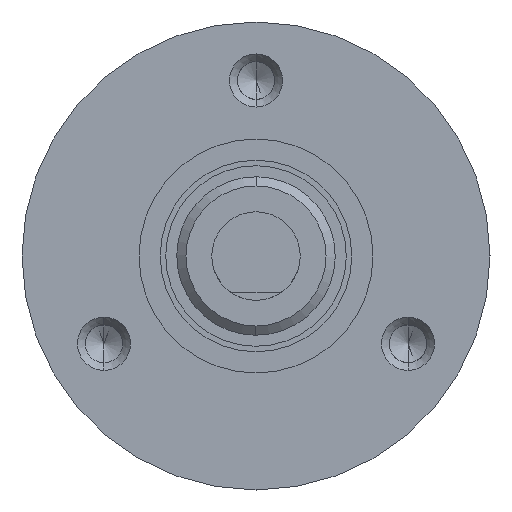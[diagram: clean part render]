
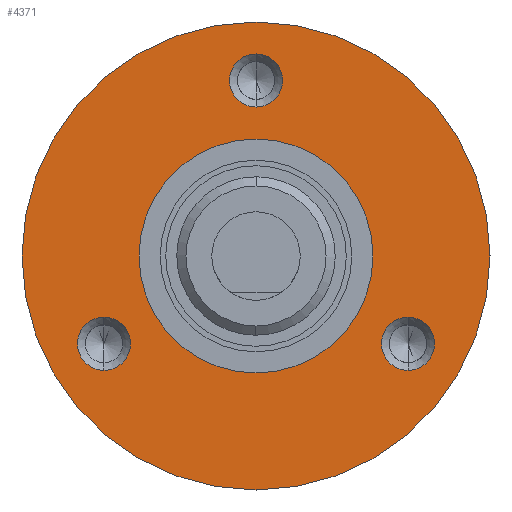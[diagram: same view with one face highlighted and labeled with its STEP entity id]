
A CAD part, left-side view. The second image highlights one B-rep face of the part: STEP entity #4371.
In plain terms, the highlighted planar face has unit normal (-1, 0, 0).
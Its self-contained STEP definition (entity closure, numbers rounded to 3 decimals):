
#153 = CARTESIAN_POINT ( 'NONE',  ( 1.768, 46.048, -11.907 ) ) ;
#1065 = DIRECTION ( 'NONE',  ( 0., 0., 1. ) ) ;
#1550 = ORIENTED_EDGE ( 'NONE', *, *, #4675, .F. ) ;
#1561 = CARTESIAN_POINT ( 'NONE',  ( 1.768, 25.423, 15.875 ) ) ;
#1571 = EDGE_CURVE ( 'NONE', #9108, #20999, #21218, .T. ) ;
#1644 = DIRECTION ( 'NONE',  ( 0., 0., 1. ) ) ;
#2259 = DIRECTION ( 'NONE',  ( 0., 0., 1. ) ) ;
#2486 = ORIENTED_EDGE ( 'NONE', *, *, #14475, .F. ) ;
#2510 = DIRECTION ( 'NONE',  ( -1., 0., 0. ) ) ;
#2513 = CARTESIAN_POINT ( 'NONE',  ( 1.768, 46.048, -15.51 ) ) ;
#2564 = EDGE_CURVE ( 'NONE', #15308, #13459, #4350, .T. ) ;
#2587 = AXIS2_PLACEMENT_3D ( 'NONE', #19311, #6935, #1644 ) ;
#2626 = ORIENTED_EDGE ( 'NONE', *, *, #15796, .T. ) ;
#3092 = AXIS2_PLACEMENT_3D ( 'NONE', #10157, #5096, #15935 ) ;
#3182 = DIRECTION ( 'NONE',  ( 0., 0., -1. ) ) ;
#3215 = FACE_OUTER_BOUND ( 'NONE', #17970, .T. ) ;
#4081 = CARTESIAN_POINT ( 'NONE',  ( 1.768, 4.799, -15.511 ) ) ;
#4109 = DIRECTION ( 'NONE',  ( 1., 0., 0. ) ) ;
#4120 = ORIENTED_EDGE ( 'NONE', *, *, #21231, .T. ) ;
#4197 = CIRCLE ( 'NONE', #21848, 15.875 ) ;
#4350 = CIRCLE ( 'NONE', #14502, 3.603 ) ;
#4371 = ADVANCED_FACE ( 'NONE', ( #5433, #14048, #13928, #16168, #3215 ), #19556, .T. ) ;
#4386 = VERTEX_POINT ( 'NONE', #1561 ) ;
#4510 = CARTESIAN_POINT ( 'NONE',  ( 1.768, 25.423, 0. ) ) ;
#4675 = EDGE_CURVE ( 'NONE', #20999, #9108, #22881, .T. ) ;
#5096 = DIRECTION ( 'NONE',  ( -1., 0., 0. ) ) ;
#5209 = CARTESIAN_POINT ( 'NONE',  ( 1.768, 41.298, 0. ) ) ;
#5313 = VERTEX_POINT ( 'NONE', #2513 ) ;
#5320 = DIRECTION ( 'NONE',  ( 0., 0., 1. ) ) ;
#5433 = FACE_BOUND ( 'NONE', #7790, .T. ) ;
#6024 = DIRECTION ( 'NONE',  ( 0., 0., -1. ) ) ;
#6092 = EDGE_LOOP ( 'NONE', ( #15454, #13209 ) ) ;
#6614 = CARTESIAN_POINT ( 'NONE',  ( 1.768, 25.422, 27.418 ) ) ;
#6918 = CIRCLE ( 'NONE', #17834, 31.75 ) ;
#6935 = DIRECTION ( 'NONE',  ( -1., 0., 0. ) ) ;
#7790 = EDGE_LOOP ( 'NONE', ( #10171, #1550 ) ) ;
#8000 = VERTEX_POINT ( 'NONE', #18902 ) ;
#8039 = CARTESIAN_POINT ( 'NONE',  ( 1.768, 4.799, -11.908 ) ) ;
#8263 = DIRECTION ( 'NONE',  ( -1., 0., 0. ) ) ;
#8433 = AXIS2_PLACEMENT_3D ( 'NONE', #16889, #2510, #2259 ) ;
#9108 = VERTEX_POINT ( 'NONE', #6614 ) ;
#10157 = CARTESIAN_POINT ( 'NONE',  ( 1.768, 4.799, -11.908 ) ) ;
#10171 = ORIENTED_EDGE ( 'NONE', *, *, #1571, .F. ) ;
#10448 = VERTEX_POINT ( 'NONE', #20320 ) ;
#10939 = AXIS2_PLACEMENT_3D ( 'NONE', #21408, #19526, #3182 ) ;
#11250 = CIRCLE ( 'NONE', #13894, 3.603 ) ;
#11300 = DIRECTION ( 'NONE',  ( -1., 0., 0. ) ) ;
#11352 = CIRCLE ( 'NONE', #3092, 3.603 ) ;
#12238 = CARTESIAN_POINT ( 'NONE',  ( 1.768, 46.048, -8.304 ) ) ;
#12280 = EDGE_CURVE ( 'NONE', #15576, #5313, #11250, .T. ) ;
#12386 = DIRECTION ( 'NONE',  ( 1., 0., 0. ) ) ;
#13209 = ORIENTED_EDGE ( 'NONE', *, *, #13938, .F. ) ;
#13459 = VERTEX_POINT ( 'NONE', #21283 ) ;
#13894 = AXIS2_PLACEMENT_3D ( 'NONE', #153, #11300, #17833 ) ;
#13928 = FACE_BOUND ( 'NONE', #6092, .T. ) ;
#13938 = EDGE_CURVE ( 'NONE', #5313, #15576, #14351, .T. ) ;
#14048 = FACE_BOUND ( 'NONE', #18987, .T. ) ;
#14351 = CIRCLE ( 'NONE', #21850, 3.603 ) ;
#14475 = EDGE_CURVE ( 'NONE', #13459, #15308, #11352, .T. ) ;
#14502 = AXIS2_PLACEMENT_3D ( 'NONE', #8039, #8263, #18775 ) ;
#15198 = DIRECTION ( 'NONE',  ( 0., 0., -1. ) ) ;
#15308 = VERTEX_POINT ( 'NONE', #4081 ) ;
#15454 = ORIENTED_EDGE ( 'NONE', *, *, #12280, .F. ) ;
#15576 = VERTEX_POINT ( 'NONE', #12238 ) ;
#15598 = ORIENTED_EDGE ( 'NONE', *, *, #15623, .F. ) ;
#15623 = EDGE_CURVE ( 'NONE', #10448, #8000, #19240, .T. ) ;
#15634 = VERTEX_POINT ( 'NONE', #22847 ) ;
#15788 = DIRECTION ( 'NONE',  ( -1., 0., 0. ) ) ;
#15796 = EDGE_CURVE ( 'NONE', #15634, #4386, #4197, .T. ) ;
#15935 = DIRECTION ( 'NONE',  ( 0., 0., 1. ) ) ;
#16066 = CARTESIAN_POINT ( 'NONE',  ( 1.768, 25.422, 20.212 ) ) ;
#16168 = FACE_BOUND ( 'NONE', #16974, .T. ) ;
#16772 = DIRECTION ( 'NONE',  ( 1., 0., 0. ) ) ;
#16859 = AXIS2_PLACEMENT_3D ( 'NONE', #5209, #21439, #5320 ) ;
#16889 = CARTESIAN_POINT ( 'NONE',  ( 1.768, 25.422, 23.815 ) ) ;
#16974 = EDGE_LOOP ( 'NONE', ( #2626, #4120 ) ) ;
#17038 = ORIENTED_EDGE ( 'NONE', *, *, #19085, .F. ) ;
#17833 = DIRECTION ( 'NONE',  ( 0., 0., 1. ) ) ;
#17834 = AXIS2_PLACEMENT_3D ( 'NONE', #21350, #12386, #19574 ) ;
#17970 = EDGE_LOOP ( 'NONE', ( #17038, #15598 ) ) ;
#18775 = DIRECTION ( 'NONE',  ( 0., 0., 1. ) ) ;
#18902 = CARTESIAN_POINT ( 'NONE',  ( 1.768, 25.423, -31.75 ) ) ;
#18987 = EDGE_LOOP ( 'NONE', ( #2486, #22855 ) ) ;
#19085 = EDGE_CURVE ( 'NONE', #8000, #10448, #6918, .T. ) ;
#19240 = CIRCLE ( 'NONE', #10939, 31.75 ) ;
#19311 = CARTESIAN_POINT ( 'NONE',  ( 1.768, 25.422, 23.815 ) ) ;
#19526 = DIRECTION ( 'NONE',  ( 1., 0., 0. ) ) ;
#19556 = PLANE ( 'NONE',  #16859 ) ;
#19574 = DIRECTION ( 'NONE',  ( 0., 0., -1. ) ) ;
#20218 = CARTESIAN_POINT ( 'NONE',  ( 1.768, 25.423, 0. ) ) ;
#20320 = CARTESIAN_POINT ( 'NONE',  ( 1.768, 25.423, 31.75 ) ) ;
#20952 = CARTESIAN_POINT ( 'NONE',  ( 1.768, 46.048, -11.907 ) ) ;
#20999 = VERTEX_POINT ( 'NONE', #16066 ) ;
#21218 = CIRCLE ( 'NONE', #8433, 3.603 ) ;
#21231 = EDGE_CURVE ( 'NONE', #4386, #15634, #22021, .T. ) ;
#21283 = CARTESIAN_POINT ( 'NONE',  ( 1.768, 4.799, -8.305 ) ) ;
#21350 = CARTESIAN_POINT ( 'NONE',  ( 1.768, 25.423, 0. ) ) ;
#21408 = CARTESIAN_POINT ( 'NONE',  ( 1.768, 25.423, 0. ) ) ;
#21439 = DIRECTION ( 'NONE',  ( -1., 0., 0. ) ) ;
#21645 = AXIS2_PLACEMENT_3D ( 'NONE', #4510, #16772, #6024 ) ;
#21848 = AXIS2_PLACEMENT_3D ( 'NONE', #20218, #4109, #15198 ) ;
#21850 = AXIS2_PLACEMENT_3D ( 'NONE', #20952, #15788, #1065 ) ;
#22021 = CIRCLE ( 'NONE', #21645, 15.875 ) ;
#22847 = CARTESIAN_POINT ( 'NONE',  ( 1.768, 25.423, -15.875 ) ) ;
#22855 = ORIENTED_EDGE ( 'NONE', *, *, #2564, .F. ) ;
#22881 = CIRCLE ( 'NONE', #2587, 3.603 ) ;
